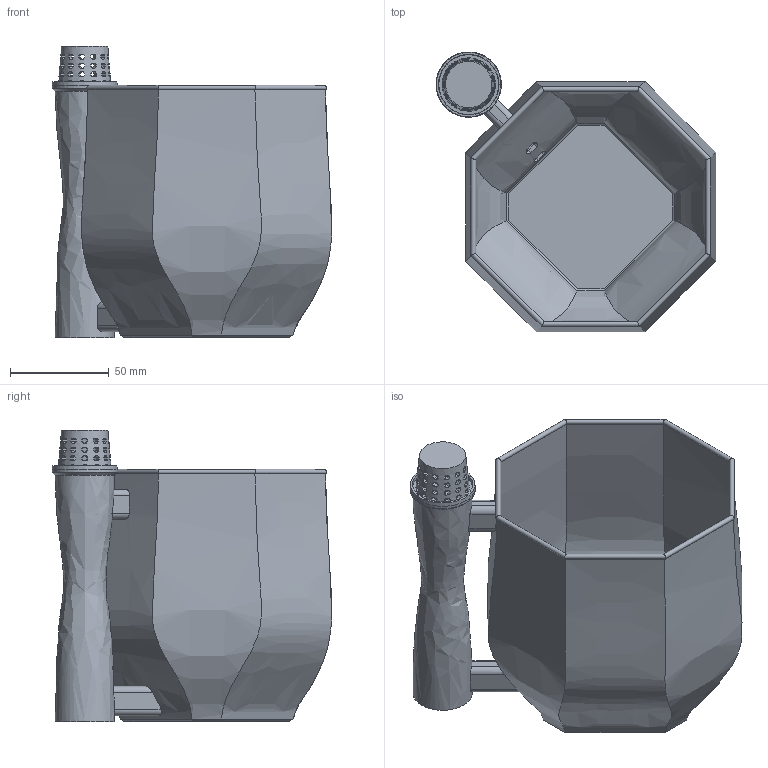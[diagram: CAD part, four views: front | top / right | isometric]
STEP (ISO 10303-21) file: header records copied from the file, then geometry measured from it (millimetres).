
FILE_DESCRIPTION(/* description */ (''),/* implementation_level */ '2;1');
FILE_NAME(/* name */ 'D:/Documents/3D/Garden/vase ladder/Cutomizers/TowerA v5.step',/* time_stamp */ '2021-04-07T18:56:47-04:00',/* author */ (''),/* organization */ (''),/* preprocessor_version */ 'ST-DEVELOPER v18.1',/* originating_system */ 'Autodesk Translation Framework v10.6.0.1341',/* authorisation */ '');
FILE_SCHEMA (('AUTOMOTIVE_DESIGN { 1 0 10303 214 3 1 1 }'));
Length unit declared in the file: millimetre
Products named in the file (1): TowerA
Bounding box: 141.59 x 141.59 x 147.5 mm (x, y, z)
Volume: 99602 mm3; surface area: 141828.5 mm2
Topology: 1 solids, 1 shells, 504 faces, 1555 edges, 1040 vertices
Faces by surface type: plane 435, bspline 39, cylinder 25, cone 5
Full cylindrical faces by diameter (mm): 33 x1
Entity records: 24127 total; most frequent: CARTESIAN_POINT 9846, ORIENTED_EDGE 3110, DIRECTION 2954, EDGE_CURVE 1555, AXIS2_PLACEMENT_3D 1136, VERTEX_POINT 1040, LINE 682, VECTOR 682
